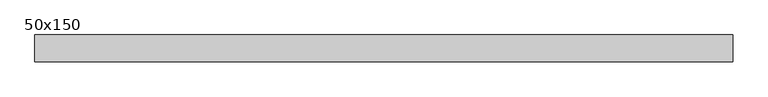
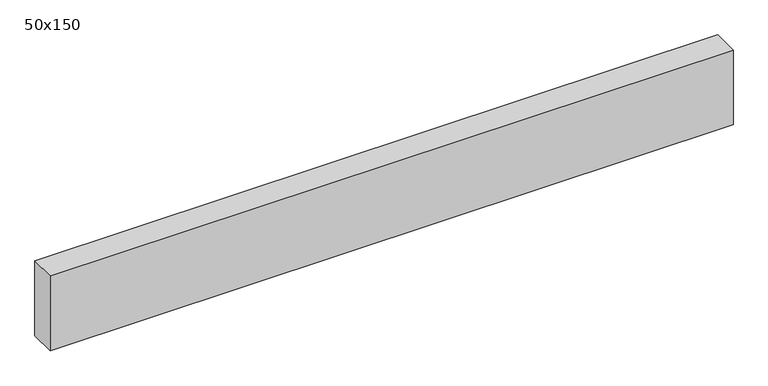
"""IFC4 building model written with IfcOpenShell, lengths in millimetres: beam geometry, Graded Timber : 50x150."""

import ifcopenshell
import ifcopenshell.guid

model = None  # the IFC model being written
_history = None  # IfcOwnerHistory: only IFC2X3 demands one
_inside = {}  # id of a spatial element -> (the spatial element, [elements in it])
_under = {}  # id of a project, library or spatial element -> (it, [spatial elements below it])
_declared = {}  # id of a project -> (the project, [libraries it declares])
_typed = {}  # id of a type object -> (the type object, [elements of that type])
_made_of = {}  # id of a material, layer set ... -> (it, [elements and type objects made of it])


def new_model(schema):
    """Start an empty IFC model of exactly this schema.

    Asked for "IFC4X3", IfcOpenShell would pick the latest addendum, in which some entities
    have other attributes; the version numbers below select the first issue.
    IFC2X3 requires an IfcOwnerHistory on every rooted entity: one is made here for all.
    """
    global model, _history
    if schema == "IFC4X3":
        model = ifcopenshell.file(schema_version=(4, 3, 0, 0))
    else:
        model = ifcopenshell.file(schema=schema)
    _inside.clear()
    _under.clear()
    _declared.clear()
    _typed.clear()
    _made_of.clear()
    _history = None
    if model.schema == "IFC2X3":
        org = make("IfcOrganization", Name="unknown")
        user = make(
            "IfcPersonAndOrganization",
            ThePerson=make("IfcPerson", FamilyName="unknown"),
            TheOrganization=org,
        )
        app = make(
            "IfcApplication",
            ApplicationDeveloper=org,
            Version="unknown",
            ApplicationFullName="unknown",
            ApplicationIdentifier="unknown",
        )
        _history = make(
            "IfcOwnerHistory",
            OwningUser=user,
            OwningApplication=app,
            ChangeAction="ADDED",
            CreationDate=0,
        )
    return model


def make(cls, **values):
    """One entity of the class cls with the attributes given. An attribute that is None is left unset."""
    return model.create_entity(
        cls, **{name: value for name, value in values.items() if value is not None}
    )


def rooted(cls, **values):
    """An entity with a GlobalId (a new one), such as an element, a storey or a relation."""
    return make(cls, GlobalId=ifcopenshell.guid.new(), OwnerHistory=_history, **values)


def si_unit(unit_type, name, prefix=None):
    """IfcSIUnit, for example si_unit("LENGTHUNIT", "METRE", prefix="MILLI")."""
    return make("IfcSIUnit", UnitType=unit_type, Prefix=prefix, Name=name)


def assignment(units):
    """IfcUnitAssignment: the units of a project."""
    return None if units is None else make("IfcUnitAssignment", Units=units)


def point(xyz):
    """IfcCartesianPoint."""
    return None if xyz is None else make("IfcCartesianPoint", Coordinates=xyz)


def direction(xyz):
    """IfcDirection."""
    return None if xyz is None else make("IfcDirection", DirectionRatios=xyz)


def frame(location, z_axis=None, x_axis=None):
    """IfcAxis2Placement3D, a coordinate frame: its origin and axes. An axis left out is left unset."""
    return make(
        "IfcAxis2Placement3D",
        Location=point(location),
        Axis=direction(z_axis),
        RefDirection=direction(x_axis),
    )


def origin():
    """The frame at (0, 0, 0) with its axes left unset."""
    return frame((0.0, 0.0, 0.0))


def place(relative_to, where):
    """IfcLocalPlacement: puts the frame where relative to a parent placement (None: the world)."""
    return make(
        "IfcLocalPlacement", PlacementRelTo=relative_to, RelativePlacement=where
    )


def context(
    kind, dimensions, precision=None, world=None, true_north=None, identifier=None
):
    """IfcGeometricRepresentationContext, for example the 3D "Model" context."""
    return make(
        "IfcGeometricRepresentationContext",
        ContextIdentifier=identifier,
        ContextType=kind,
        CoordinateSpaceDimension=dimensions,
        Precision=precision,
        WorldCoordinateSystem=world,
        TrueNorth=true_north,
    )


def project(units=None, contexts=None):
    """IfcProject with its units and contexts."""
    return rooted(
        "IfcProject",
        Name="project",
        RepresentationContexts=contexts,
        UnitsInContext=assignment(units),
    )


def spatial(cls, under=None, at=None, **own):
    """A site, building, storey or space (cls), placed at a placement, below another one or the project."""
    s = rooted(cls, ObjectPlacement=at, **own)
    if under is not None:
        _under.setdefault(under.id(), (under, []))[1].append(s)
    return s


def polyline(points):
    """IfcPolyline through the points."""
    return make("IfcPolyline", Points=[point(p) for p in points])


def outline(outer, holes=None, kind="AREA"):
    """IfcArbitraryClosedProfileDef: a profile drawn as a closed curve; with holes, ...WithVoids."""
    if holes is None:
        return make("IfcArbitraryClosedProfileDef", ProfileType=kind, OuterCurve=outer)
    return make(
        "IfcArbitraryProfileDefWithVoids",
        ProfileType=kind,
        OuterCurve=outer,
        InnerCurves=holes,
    )


def extrude(swept, where, along, depth):
    """IfcExtrudedAreaSolid: the profile swept, set in the frame where, extruded along a direction by depth."""
    return make(
        "IfcExtrudedAreaSolid",
        SweptArea=swept,
        Position=where,
        ExtrudedDirection=direction(along),
        Depth=depth,
    )


def shape(context_of_items, identifier, shape_type, items):
    """IfcShapeRepresentation: the items that make up one representation, for example the "Body"."""
    return make(
        "IfcShapeRepresentation",
        ContextOfItems=context_of_items,
        RepresentationIdentifier=identifier,
        RepresentationType=shape_type,
        Items=items,
    )


def source(mapping_origin, context_of_items, identifier, shape_type, items):
    """IfcRepresentationMap: a shape defined once, which mapped items show again and again."""
    return make(
        "IfcRepresentationMap",
        MappingOrigin=mapping_origin,
        MappedRepresentation=shape(context_of_items, identifier, shape_type, items),
    )


def transform(
    local_origin,
    x_axis=None,
    y_axis=None,
    z_axis=None,
    scale=None,
    scale2=None,
    scale3=None,
    uniform=True,
):
    """IfcCartesianTransformationOperator3D, or its non-uniform kind. x_axis, y_axis, z_axis: its Axis1, 2, 3."""
    if uniform:
        return make(
            "IfcCartesianTransformationOperator3D",
            Axis1=direction(x_axis),
            Axis2=direction(y_axis),
            LocalOrigin=point(local_origin),
            Scale=scale,
            Axis3=direction(z_axis),
        )
    return make(
        "IfcCartesianTransformationOperator3DnonUniform",
        Axis1=direction(x_axis),
        Axis2=direction(y_axis),
        LocalOrigin=point(local_origin),
        Scale=scale,
        Axis3=direction(z_axis),
        Scale2=scale2,
        Scale3=scale3,
    )


def mapped(mapping_source, mapping_target):
    """IfcMappedItem: shows the shape of a source again, moved by a transform."""
    return make(
        "IfcMappedItem", MappingSource=mapping_source, MappingTarget=mapping_target
    )


def made_of(thing, what):
    """Note that an element or type object is made of a material, layer set ...; save() writes the relation."""
    if what is not None:
        _made_of.setdefault(what.id(), (what, []))[1].append(thing)
    return thing


def element(
    cls,
    number,
    at=None,
    inside=None,
    cuts=None,
    type_object=None,
    material=None,
    context=None,
    identifier="Body",
    shape_type=None,
    held_by="IfcProductDefinitionShape",
    body=None,
    shapes=None,
    **own,
):
    """One element of the class cls, such as IfcWall. Its Tag is "e" and its number.

    at: its placement. inside: the storey or other place that contains it. cuts: it is an
    opening in that element (IfcRelVoidsElement). A single representation is given by context,
    identifier, shape_type and body (its items); several are given by shapes. held_by: the class
    of the entity that holds the representations. save() writes the other relations.
    """
    e = rooted(cls, Tag="e%d" % number, ObjectPlacement=at, **own)
    if body is not None:
        shapes = [shape(context, identifier, shape_type, body)]
    if shapes is not None:
        e.Representation = make(held_by, Representations=shapes)
    if inside is not None:
        _inside.setdefault(inside.id(), (inside, []))[1].append(e)
    if cuts is not None:
        rooted(
            "IfcRelVoidsElement", RelatingBuildingElement=cuts, RelatedOpeningElement=e
        )
    if type_object is not None:
        _typed.setdefault(type_object.id(), (type_object, []))[1].append(e)
    return made_of(e, material)


def aggregate(whole, parts):
    """IfcRelAggregates: a whole, such as a stair, and the parts it consists of."""
    return rooted("IfcRelAggregates", RelatingObject=whole, RelatedObjects=parts)


def save(model, path):
    """Write the relations noted so far, then the file.

    IfcRelAggregates (storeys below a building ...), IfcRelContainedInSpatialStructure (elements
    in a storey), IfcRelDefinesByType, IfcRelAssociatesMaterial and IfcRelDeclares: one each for
    every whole, place, type object, material and project.
    """
    for whole, parts in _under.values():
        aggregate(whole, parts)
    for where, things in _inside.values():
        rooted(
            "IfcRelContainedInSpatialStructure",
            RelatedElements=things,
            RelatingStructure=where,
        )
    for kind, things in _typed.values():
        rooted("IfcRelDefinesByType", RelatedObjects=things, RelatingType=kind)
    for what, things in _made_of.values():
        rooted("IfcRelAssociatesMaterial", RelatedObjects=things, RelatingMaterial=what)
    for by, libraries in _declared.values():
        rooted("IfcRelDeclares", RelatingContext=by, RelatedDefinitions=libraries)
    model.write(path)


def beam_50x150_ffa57ea8(model_context):
    return source(origin(), model_context, "Body", "SweptSolid", [
        extrude(outline(polyline([(646.5, 25.0), (646.5, -25.0), (-646.5, -25.0), (-646.5, 25.0), (646.5, 25.0)])), frame((0.0, 0.0, -75.0), z_axis=(0.0, 0.0, 1.0), x_axis=(1.0, 0.0, 0.0)), (0.0, 0.0, 1.0), 150.0),
    ])


if __name__ == "__main__":
    model = new_model("IFC4")
    model_context = context("Model", 3, world=origin())
    ifc_project = project(units=[si_unit("LENGTHUNIT", "METRE", prefix="MILLI")], contexts=[model_context])
    site = spatial("IfcSite", under=ifc_project)
    building = spatial("IfcBuilding", under=site)
    placement = place(None, origin())
    beam_50x150_shape = beam_50x150_ffa57ea8(model_context)
    element("IfcBeam", 1, ObjectType="Graded Timber : 50x150", at=placement, inside=building, context=model_context, shape_type="MappedRepresentation", body=[
        mapped(beam_50x150_shape, transform((0.0, 0.0, 0.0), x_axis=(1.0, 0.0, 0.0), y_axis=(0.0, 1.0, 0.0), z_axis=(0.0, 0.0, 1.0))),
    ])
    save(model, "model.ifc")
